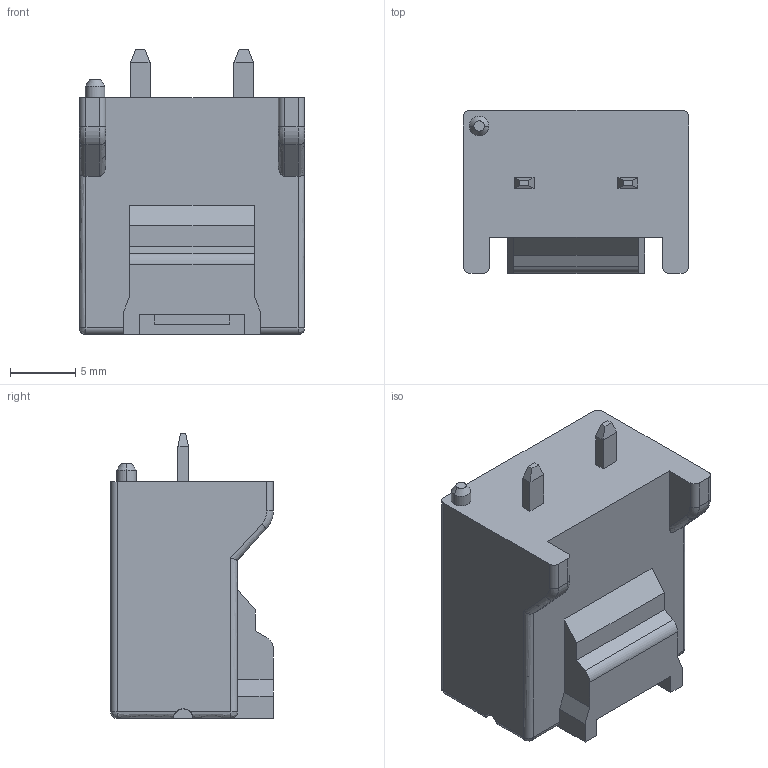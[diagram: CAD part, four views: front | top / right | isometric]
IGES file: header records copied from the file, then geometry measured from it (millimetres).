
Start section: Elysium IGES Interface
Global section: file name: 76HC:\Documents and Settings\takeshi_fukushima\デスクトップ\DF22-2P-7.92DSA.igs; native system: CoCreate Modeling 16.00B  02-Dec-2008; preprocessor: CoCreate IGES_3D V2.2; author: Unknown; organization: Unknown; date: 20100308.175025; units: millimetre
Bounding box: 17.22 x 12.45 x 21.8 mm (x, y, z)
Volume: 2007.8 mm3; surface area: 2405.2 mm2
Topology: 1 solids, 1 shells, 116 faces, 291 edges, 178 vertices
Faces by surface type: bspline 116
